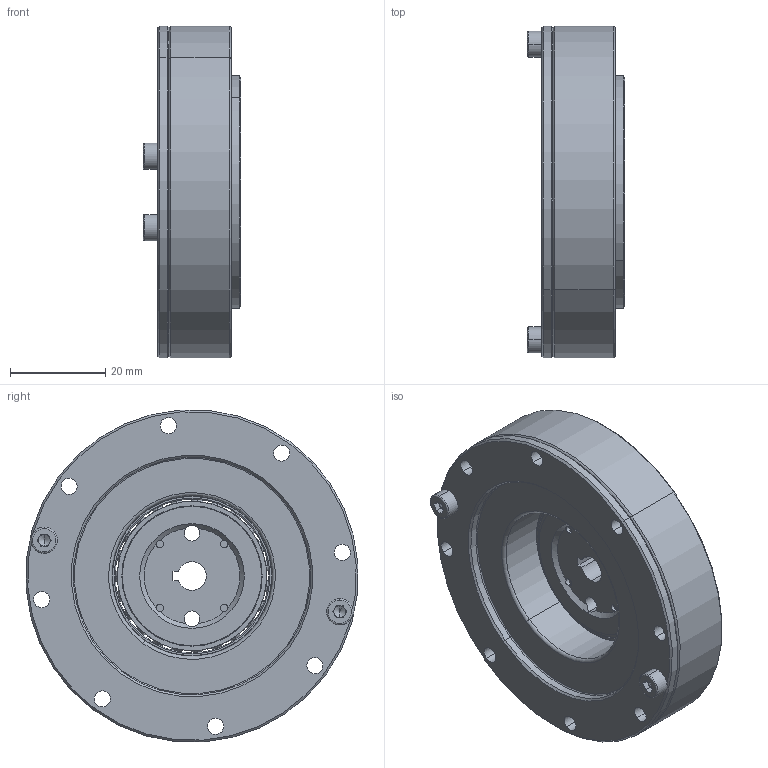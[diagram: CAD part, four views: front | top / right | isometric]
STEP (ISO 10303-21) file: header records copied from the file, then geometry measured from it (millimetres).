
FILE_DESCRIPTION (( 'STEP AP203' ), '1' );
FILE_NAME ('LHD-14-XXX-C-I.STEP', '2017-06-25T07:10:31', ( 'Windows 蚚誧' ), ( 'Users' ), 'SwSTEP 2.0', 'SolidWorks 2013', '' );
FILE_SCHEMA (( 'CONFIG_CONTROL_DESIGN' ));
Length unit declared in the file: millimetre
Products named in the file (13): countersunk flat head cross recess screw_din_ISO 7046-1 - M2 x 4 - Z --- 4N; LHD-14-XXX-P02; LHD-14-XXX-C-I; 15z-49585; socket head cap screw_din_DIN 912 M2 x 8 --- 8C; socket head cap screw_din_DIN 912 M3 x 6 --- 6C; RZC-14S内外圈+钢球; RZC-14悵厥殤; DB-14-I; 柔性轴承RZC-14S; LHD-14-XXX-P01; LCD-14-XXX-P03-I; LHD-14-P04
Assembly tree (31 placements, depth 3):
  LHD-14-XXX-C-I
    DB-14-I
    LHD-14-XXX-P01
    LHD-14-P04
    LHD-14-XXX-P02
    15z-49585
    socket head cap screw_din_DIN 912 M2 x 8 --- 8C  x16
    socket head cap screw_din_DIN 912 M3 x 6 --- 6C  x2
    柔性轴承RZC-14S
      RZC-14S内外圈+钢球
      RZC-14悵厥殤
    LCD-14-XXX-P03-I
    countersunk flat head cross recess screw_din_ISO 7046-1 - M2 x 4 - Z --- 4N  x4
Bounding box: 20.5 x 69.84 x 69.84 mm (x, y, z)
Volume: 42719.9 mm3; surface area: 43585.8 mm2
Topology: 55 solids, 55 shells, 1272 faces, 2999 edges, 1799 vertices
Faces by surface type: plane 463, cylinder 405, cone 228, torus 130, sphere 46
Entity records: 22789 total; most frequent: DIRECTION 4141, CARTESIAN_POINT 3527, ORIENTED_EDGE 3264, AXIS2_PLACEMENT_3D 1778, EDGE_CURVE 1632, VERTEX_POINT 1040, CIRCLE 1026, EDGE_LOOP 898
